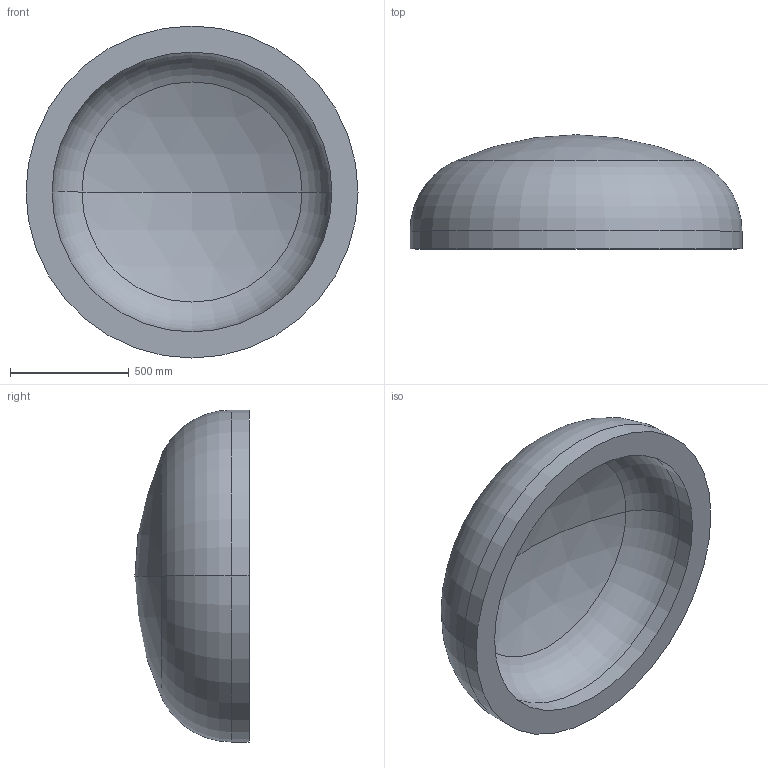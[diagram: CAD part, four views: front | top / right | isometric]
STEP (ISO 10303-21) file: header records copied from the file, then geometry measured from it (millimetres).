
FILE_DESCRIPTION (( 'STEP AP203' ), '1' );
FILE_NAME ('DIN 28013 Korbbogenform_-_Boden DIN 28013 - 1400 x 75 - I - s=110.step', '2016-07-01T10:30:48', ( '' ), ( '' ), 'SwSTEP 2.0', 'SolidWorks 2013', '' );
FILE_SCHEMA (( 'CONFIG_CONTROL_DESIGN' ));
Length unit declared in the file: millimetre
Products named in the file (1): DIN 28013 Korbbogenform_-_Boden DIN 28013 - 1400 x 75 - I - s=110
Bounding box: 1400 x 481.35 x 1400 mm (x, y, z)
Volume: 245785531.8 mm3; surface area: 4939961.1 mm2
Topology: 1 solids, 1 shells, 13 faces, 24 edges, 14 vertices
Faces by surface type: torus 4, cylinder 4, sphere 4, plane 1
Entity records: 407 total; most frequent: DIRECTION 72, CARTESIAN_POINT 52, ORIENTED_EDGE 48, AXIS2_PLACEMENT_3D 34, EDGE_CURVE 24, CIRCLE 20, EDGE_LOOP 14, VERTEX_POINT 14
